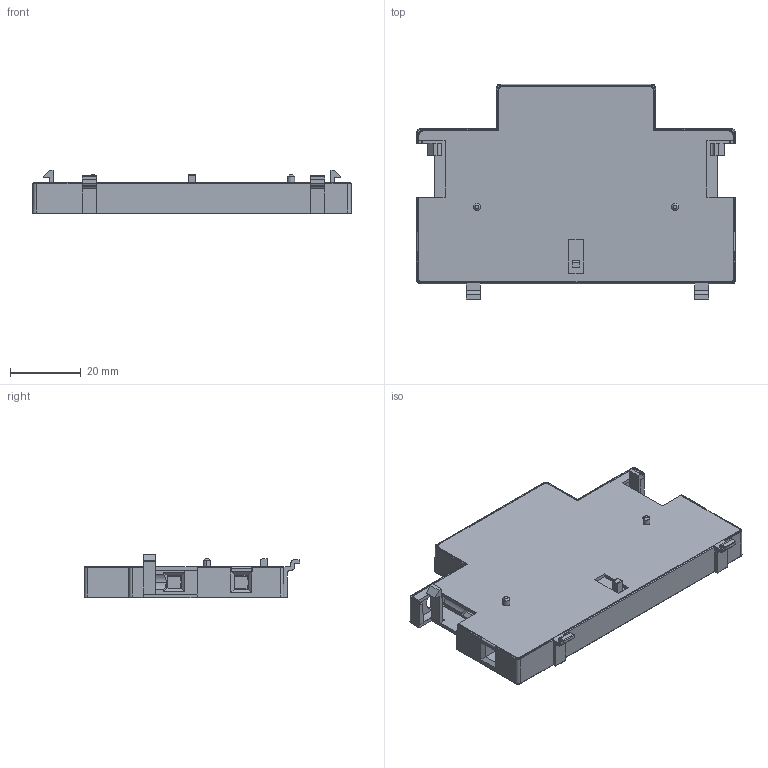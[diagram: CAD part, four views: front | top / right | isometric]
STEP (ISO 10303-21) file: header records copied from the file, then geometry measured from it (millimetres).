
FILE_DESCRIPTION( ( 'Unknown' ), '1' );
FILE_NAME( 'C:/Users/pdellaca/Desktop/Marcello 17-06-2015/new/022-6x.stp', 'Unknown', ( 'Unknown' ), ( 'Unknown' ), 'PSStep 15.0.49', 'Unknown', ' ' );
FILE_SCHEMA( ( 'AUTOMOTIVE_DESIGN { 1 0 10303 214 1 1 1 1 }' ) );
Length unit declared in the file: millimetre
Products named in the file (779): Assem1;  TRM_SRF;  TRM_SRF_8;  TRM_SRF_9;  TRM_SRF_10;  TRM_SRF_11;  TRM_SRF_12;  TRM_SRF_13;  TRM_SRF_14;  TRM_SRF_15;  TRM_SRF_16
Assembly tree (778 placements, depth 2):
  Assem1
     TRM_SRF
     TRM_SRF_8
     TRM_SRF_9
     TRM_SRF_10
     TRM_SRF_11
     TRM_SRF_12
     TRM_SRF_13
     TRM_SRF_14
     TRM_SRF_15
     TRM_SRF_16
    (unnamed)
    (unnamed)
    (unnamed)
    (unnamed)
    (unnamed)
    (unnamed)
    (unnamed)
    (unnamed)
    (unnamed)
    (unnamed)
    (unnamed)
    (unnamed)
    (unnamed)
    (unnamed)
    (unnamed)
    (unnamed)
    (unnamed)
    (unnamed)
    (unnamed)
    (unnamed)
    (unnamed)
    (unnamed)
    (unnamed)
    (unnamed)
    (unnamed)
    (unnamed)
    (unnamed)
    (unnamed)
    (unnamed)
    (unnamed)
    (unnamed)
    (unnamed)
    (unnamed)
    (unnamed)
    (unnamed)
    (unnamed)
    (unnamed)
    (unnamed)
    (unnamed)
    (unnamed)
    (unnamed)
    (unnamed)
    (unnamed)
    (unnamed)
    (unnamed)
    (unnamed)
    (unnamed)
    (unnamed)
    (unnamed)
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Bounding box: 90 x 60.9 x 12.3 mm (x, y, z)
Volume: 1541.1 mm3; surface area: 32247.6 mm2
Topology: 10 solids, 1133 shells, 1647 faces, 7979 edges, 7473 vertices
Faces by surface type: plane 1155, cylinder 359, cone 44, bspline 44, torus 37, revolution 8
Full cylindrical faces by diameter (mm): 1.5 x4, 2 x4, 2.5 x1, 3 x8
Entity records: 123651 total; most frequent: CARTESIAN_POINT 25817, DIRECTION 12842, ORIENTED_EDGE 9278, EDGE_CURVE 7910, VERTEX_POINT 7460, LINE 6210, VECTOR 6210, PRESENTATION_STYLE_ASSIGNMENT 4072
